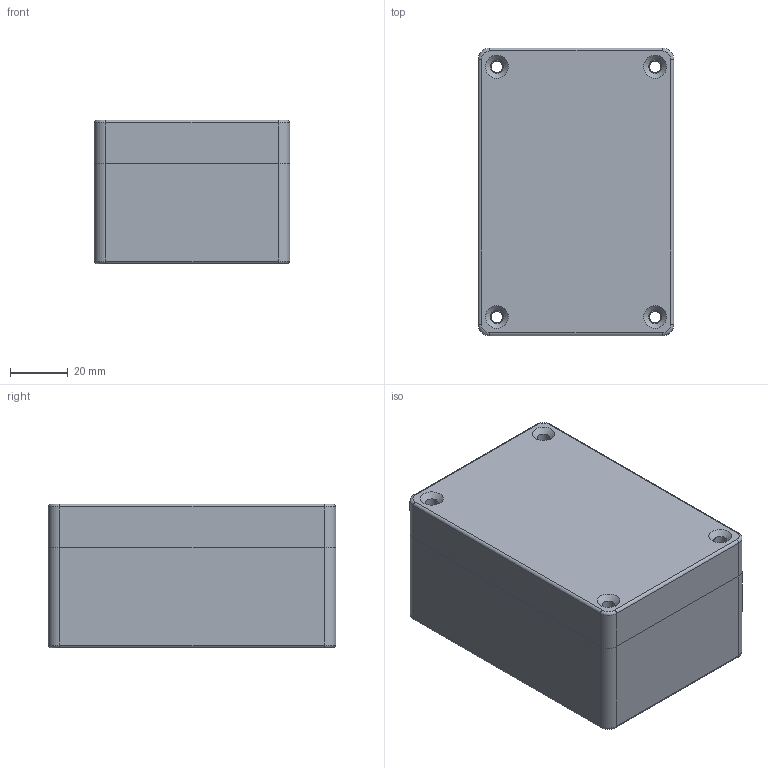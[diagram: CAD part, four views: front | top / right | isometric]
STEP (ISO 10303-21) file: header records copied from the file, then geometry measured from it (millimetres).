
FILE_DESCRIPTION(/* description */ (''),/* implementation_level */ '2;1');
FILE_NAME(/* name */ 'C:/Users/User/Downloads/防水ケース_100x68x50mm v4.step',/* time_stamp */ '2021-10-05T00:46:19+09:00',/* author */ (''),/* organization */ (''),/* preprocessor_version */ 'ST-DEVELOPER v18.1',/* originating_system */ 'Autodesk Translation Framework v10.10.0.1391',/* authorisation */ '');
FILE_SCHEMA (('AUTOMOTIVE_DESIGN { 1 0 10303 214 3 1 1 }'));
Length unit declared in the file: millimetre
Products named in the file (3): 防水ケース_100x68x50mm; case; cover
Assembly tree (2 placements, depth 2):
  防水ケース_100x68x50mm
    case
    cover
Bounding box: 68 x 100 x 50 mm (x, y, z)
Volume: 92908.7 mm3; surface area: 63239.4 mm2
Topology: 2 solids, 2 shells, 377 faces, 1004 edges, 664 vertices
Faces by surface type: cylinder 260, plane 105, torus 8, cone 4
Full cylindrical faces by diameter (mm): 2 x4, 2.5 x6, 4 x4, 4.5 x4, 5 x4, 7 x6, 8 x4
Entity records: 12110 total; most frequent: DIRECTION 2304, CARTESIAN_POINT 2050, ORIENTED_EDGE 2008, EDGE_CURVE 1004, AXIS2_PLACEMENT_3D 918, VERTEX_POINT 664, CIRCLE 536, LINE 468
